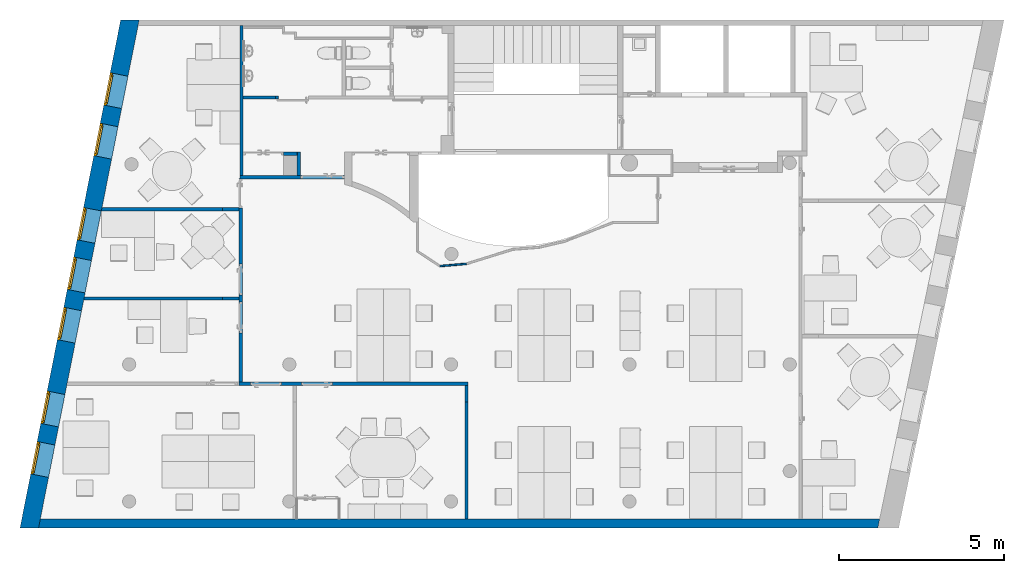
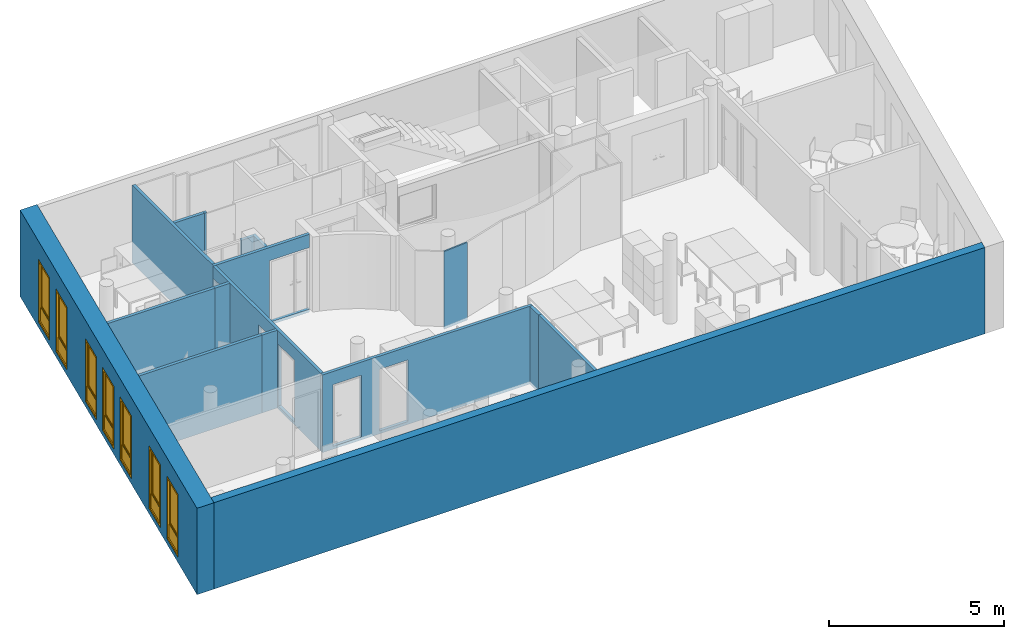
"""IFC4 building model written with IfcOpenShell, lengths in metres."""

from ifc_helpers import new_model, entity, si_unit, converted_unit, derived_unit, frame, frame_2d, origin, origin_with_axes, place, context, subcontext, project, spatial, polyline, rectangle, outline, extrude, clip, bounded_halfspace, closed_shell, open_shell, surface_model, source, transform, mapped, material, layer, layer_set, layer_usage, type_object, element, fill, save


model = new_model("IFC4")

# Units and contexts
model_context = context("Model", 3, precision=1e-05, world=origin())
body_context = subcontext(model_context, "Body", "Model", "MODEL_VIEW")
ifc_project = project(units=[si_unit("LENGTHUNIT", "METRE"), si_unit("AREAUNIT", "SQUARE_METRE"), si_unit("VOLUMEUNIT", "CUBIC_METRE"), si_unit("MASSUNIT", "GRAM", prefix="KILO"), converted_unit("PLANEANGLEUNIT", "DEGREE", entity("IfcPlaneAngleMeasure", 0.0174532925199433), si_unit("PLANEANGLEUNIT", "RADIAN"), dimensions=[0, 0, 0, 0, 0, 0, 0]), derived_unit("THERMALTRANSMITTANCEUNIT", [(si_unit("POWERUNIT", "WATT"), 1), (si_unit("THERMODYNAMICTEMPERATUREUNIT", "KELVIN"), -1), (si_unit("LENGTHUNIT", "METRE"), -2)]), derived_unit("VOLUMETRICFLOWRATEUNIT", [(si_unit("LENGTHUNIT", "METRE"), 3), (converted_unit("TIMEUNIT", "hour", entity("IfcTimeMeasure", 3600.0), si_unit("TIMEUNIT", "SECOND"), dimensions=[0, 0, 1, 0, 0, 0, 0]), -1), (si_unit("LENGTHUNIT", "METRE"), -1)])], contexts=[model_context])

# Building, storeys
building_placement = place(None, origin())
building = spatial("IfcBuilding", under=ifc_project, at=building_placement, Name="HABITATGE PLURIFAMILIAR", CompositionType="ELEMENT")
storey_1_placement = place(building_placement, frame((0.0, 0.0, 12.27)))
storey_1 = spatial("IfcBuildingStorey", under=building, at=storey_1_placement, Name="PLANTA TERCERA", CompositionType="ELEMENT", Elevation=12.27)
storey_2_placement = place(storey_1_placement, frame((0.0, 0.0, 9.26)))
storey_2 = spatial("IfcBuildingStorey", under=storey_1, at=storey_2_placement, Name="NOU", CompositionType="PARTIAL")

# Wall
ifc_material_1 = material()
ifc_layer_1 = layer(ifc_material_1, 0.1)
ifc_layer_set_1 = layer_set([ifc_layer_1])
ifc_layer_usage_1 = layer_usage(ifc_layer_set_1, "AXIS2", "POSITIVE", 0.0)
wall_1_placement = place(storey_2_placement, frame((404.436984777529, 23.5194598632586, -9.36), z_axis=(0.0, 0.0, 1.0), x_axis=(0.0, 1.0, 0.0)))
element("IfcWall", 1, at=wall_1_placement, inside=storey_2, material=ifc_layer_usage_1, Name="Evans P3", context=body_context, shape_type="SweptSolid", body=[
    extrude(outline(polyline([(0.0977698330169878, -0.1), (4.64655787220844, -0.1), (4.64655787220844, 0.0), (0.0, 0.0), (0.0, -0.0040648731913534), (0.0977698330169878, -0.0040648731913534), (0.0977698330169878, -0.1)])), frame((-0.0977698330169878, 0.1, 0.0), z_axis=(0.0, 0.0, 1.0), x_axis=(1.0, 0.0, 0.0)), (0.0, 0.0, 1.0), 2.71),
])

# Wall, opening
ifc_material_2 = material()
ifc_layer_2 = layer(ifc_material_2, 0.1)
ifc_layer_set_2 = layer_set([ifc_layer_2])
ifc_layer_usage_2 = layer_usage(ifc_layer_set_2, "AXIS2", "POSITIVE", 0.0)
wall_2_placement = place(storey_2_placement, frame((406.090468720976, 24.2294598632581, -9.36), z_axis=(0.0, 0.0, 1.0), x_axis=(-1.0, 0.0, 0.0)))
wall_2 = element("IfcWall", 2, at=wall_2_placement, inside=storey_2, material=ifc_layer_usage_2, Name="Evans P3", context=body_context, shape_type="Clipping", body=[
    clip(extrude(rectangle(XDim=1.65348394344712, YDim=0.1, at=frame_2d((0.826741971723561, 0.05), x_axis=(1.0, 0.0))), origin_with_axes(), (0.0, 0.0, 1.0), 2.71), bounded_halfspace(frame((0.00674197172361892, 0.05, 0.1), z_axis=(0.0, 0.0, -1.0), x_axis=(0.0, 1.0, 0.0)), True, origin_with_axes(), polyline([(0.0134839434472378, 0.0), (0.0134839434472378, 0.1), (0.0, 0.1), (0.0, 0.0), (0.0134839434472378, 0.0)]))),
])
opening_1_placement = place(wall_2_placement, frame((1.65348394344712, 0.1, 0.0), z_axis=(0.0, -1.0, 0.0), x_axis=(0.0, 0.0, 1.0)))
element("IfcOpeningElement", 3, at=opening_1_placement, cuts=wall_2, Name="Vano porta P3", ObjectType="Opening", context=body_context, shape_type="SweptSolid", body=[
    extrude(outline(polyline([(2.71, 1.22999999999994), (2.71, 0.0), (0.0, 0.0), (0.0, 1.22999999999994), (2.71, 1.22999999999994)])), origin_with_axes(), (0.0, 0.0, 1.0), 0.1),
])

ifc_material_3 = material()
ifc_layer_3 = layer(ifc_material_3, 0.1)
ifc_layer_set_3 = layer_set([ifc_layer_3])
ifc_layer_usage_3 = layer_usage(ifc_layer_set_3, "AXIS2", "POSITIVE", 0.0)
wall_3_placement = place(storey_2_placement, frame((404.341049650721, 23.4194598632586, -9.36)))
wall_3 = element("IfcWall", 4, at=wall_3_placement, inside=storey_2, material=ifc_layer_usage_3, Name="Evans P3", context=body_context, shape_type="SweptSolid", body=[
    extrude(rectangle(XDim=3.16593512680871, YDim=0.1, at=frame_2d((1.58296756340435, 0.05), x_axis=(1.0, 0.0))), origin_with_axes(), (0.0, 0.0, 1.0), 2.71),
])
opening_2_placement = place(wall_3_placement, frame((1.83593512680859, 0.0, 0.1), z_axis=(0.0, 1.0, 0.0), x_axis=(0.0, 0.0, 1.0)))
element("IfcOpeningElement", 5, at=opening_2_placement, cuts=wall_3, Name="Vano porta P3", ObjectType="Opening", context=body_context, shape_type="SweptSolid", body=[
    extrude(outline(polyline([(2.15, 1.33000000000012), (2.15, 0.0), (0.0, 0.0), (0.0, 1.33000000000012), (2.15, 1.33000000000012)])), origin_with_axes(), (0.0, 0.0, 1.0), 0.1),
])

# Walls
ifc_material_4 = material()
ifc_layer_4 = layer(ifc_material_4, 0.100000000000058)
ifc_layer_set_4 = layer_set([ifc_layer_4])
ifc_layer_usage_4 = layer_usage(ifc_layer_set_4, "AXIS2", "POSITIVE", 0.0)
wall_4_placement = place(storey_2_placement, frame((406.176984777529, 23.5194598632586, -9.26), z_axis=(0.0, 0.0, 1.0), x_axis=(0.0, 1.0, 0.0)))
element("IfcWall", 6, at=wall_4_placement, inside=storey_2, material=ifc_layer_usage_4, Name="Evans P3", context=body_context, shape_type="SweptSolid", body=[
    extrude(rectangle(XDim=0.709999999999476, YDim=0.100000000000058, at=frame_2d((0.354999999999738, 0.0500000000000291), x_axis=(1.0, 0.0))), origin_with_axes(), (0.0, 0.0, 1.0), 2.61),
])
ifc_material_5 = material()
ifc_layer_5 = layer(ifc_material_5, 0.0499999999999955)
ifc_layer_set_5 = layer_set([ifc_layer_5])
ifc_layer_usage_5 = layer_usage(ifc_layer_set_5, "AXIS2", "POSITIVE", 0.0)
wall_5_placement = place(storey_2_placement, frame((410.391928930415, 20.7499339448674, -9.36), z_axis=(0.0, 0.0, 1.0), x_axis=(0.996349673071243, 0.0853658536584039, 0.0)))
element("IfcWall", 7, at=wall_5_placement, inside=storey_2, material=ifc_layer_usage_5, Name="Mampara P3", context=body_context, shape_type="SweptSolid", body=[
    extrude(outline(polyline([(0.0, 0.0), (0.81444647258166, 0.0), (0.809015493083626, 0.0499999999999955), (0.0119656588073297, 0.0499999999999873), (0.0290437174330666, 0.0363573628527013), (0.0, 0.0)])), origin_with_axes(), (0.0, 0.0, 1.0), 2.71),
])
ifc_material_6 = material()
ifc_layer_6 = layer(ifc_material_6, 0.1)
ifc_layer_set_6 = layer_set([ifc_layer_6])
ifc_layer_usage_6 = layer_usage(ifc_layer_set_6, "AXIS2", "POSITIVE", 0.0)
wall_6_placement = place(storey_2_placement, frame((404.436984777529, 25.8294598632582, -9.36)))
element("IfcWall", 8, at=wall_6_placement, inside=storey_2, material=ifc_layer_usage_6, Name="Evans P3", context=body_context, shape_type="SweptSolid", body=[
    extrude(rectangle(XDim=0.987474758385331, YDim=0.1, at=frame_2d((0.493737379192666, 0.05), x_axis=(1.0, 0.0))), origin_with_axes(), (0.0, 0.0, 1.0), 2.71),
])
ifc_material_7 = material()
ifc_layer_7 = layer(ifc_material_7, 0.27)
ifc_layer_set_7 = layer_set([ifc_layer_7])
ifc_layer_usage_7 = layer_usage(ifc_layer_set_7, "AXIS2", "POSITIVE", 0.0)
wall_7_placement = place(storey_2_placement, frame((398.241737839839, 12.8406121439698, -9.36)))
element("IfcWall", 9, at=wall_7_placement, inside=storey_2, material=ifc_layer_usage_7, Name="Mur P3", context=body_context, shape_type="SweptSolid", body=[
    extrude(outline(polyline([(0.0, 0.0), (25.4157442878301, 0.0), (25.471698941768, 0.27), (0.053493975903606, 0.27), (0.0, 0.0)])), origin_with_axes(), (0.0, 0.0, 1.0), 3.01),
])

# Wall, openings, doors
ifc_material_8 = material()
ifc_layer_8 = layer(ifc_material_8, 0.550000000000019)
ifc_layer_set_8 = layer_set([ifc_layer_8])
ifc_layer_usage_8 = layer_usage(ifc_layer_set_8, "AXIS2", "POSITIVE", 0.0)
wall_8_placement = place(storey_2_placement, frame((400.729735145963, 28.22824790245, -9.36), z_axis=(0.0, 0.0, 1.0), x_axis=(-0.194348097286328, -0.980932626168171, 0.0)))
wall_8 = element("IfcWall", 10, at=wall_8_placement, inside=storey_2, material=ifc_layer_usage_8, Name="Façana nord-oest P3", context=body_context, shape_type="SweptSolid", body=[
    extrude(outline(polyline([(-15.686740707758, 0.0), (0.0, 0.0), (-0.108969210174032, 0.550000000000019), (-15.7957099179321, 0.550000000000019), (-15.686740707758, 0.0)])), frame((15.686740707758, 0.0, 0.0), z_axis=(0.0, 0.0, 1.0), x_axis=(1.0, 0.0, 0.0)), (0.0, 0.0, 1.0), 3.01),
])
opening_3_placement = place(wall_8_placement, frame((3.18625006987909, 0.0, 0.19), z_axis=(-2.56312143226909e-14, 1.0, 0.0), x_axis=(0.0, 0.0, 1.0)))
opening_3 = element("IfcOpeningElement", 11, at=opening_3_placement, cuts=wall_8, Name="Vano finestra P3", ObjectType="Opening", context=body_context, shape_type="SweptSolid", body=[
    extrude(outline(polyline([(2.19, 0.999999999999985), (2.19, 0.0), (0.0, 0.0), (0.0, 0.999999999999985), (2.19, 0.999999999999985)])), origin_with_axes(), (0.0, 0.0, 1.0), 0.550000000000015),
])
opening_4_placement = place(wall_8_placement, frame((8.86719879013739, 0.0, 0.19), z_axis=(6.61450692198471e-15, 1.0, 0.0), x_axis=(0.0, 0.0, 1.0)))
opening_4 = element("IfcOpeningElement", 12, at=opening_4_placement, cuts=wall_8, Name="Vano finestra P3", ObjectType="Opening", context=body_context, shape_type="SweptSolid", body=[
    extrude(outline(polyline([(2.19, 0.99999999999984), (2.19, 0.0), (0.0, 0.0), (0.0, 0.99999999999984), (2.19, 0.99999999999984)])), origin_with_axes(), (0.0, 0.0, 1.0), 0.550000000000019),
])
opening_5_placement = place(wall_8_placement, frame((13.01350353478, 0.0, 0.19), z_axis=(6.61450692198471e-15, 1.0, 0.0), x_axis=(0.0, 0.0, 1.0)))
opening_5 = element("IfcOpeningElement", 13, at=opening_5_placement, cuts=wall_8, Name="Vano finestra P3", ObjectType="Opening", context=body_context, shape_type="SweptSolid", body=[
    extrude(outline(polyline([(2.19, 1.0000000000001), (2.19, 0.0), (0.0, 0.0), (0.0, 1.0000000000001), (2.19, 1.0000000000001)])), origin_with_axes(), (0.0, 0.0, 1.0), 0.550000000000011),
])
opening_6_placement = place(wall_8_placement, frame((11.4535035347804, 0.0, 0.19), z_axis=(-3.30725346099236e-15, 1.0, 0.0), x_axis=(0.0, 0.0, 1.0)))
opening_6 = element("IfcOpeningElement", 14, at=opening_6_placement, cuts=wall_8, Name="Vano finestra P3", ObjectType="Opening", context=body_context, shape_type="SweptSolid", body=[
    extrude(outline(polyline([(2.19, 0.999999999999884), (2.19, 0.0), (0.0, 0.0), (0.0, 0.999999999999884), (2.19, 0.999999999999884)])), origin_with_axes(), (0.0, 0.0, 1.0), 0.550000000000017),
])
opening_7_placement = place(wall_8_placement, frame((7.31719879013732, 0.0, 0.19), z_axis=(0.0, 1.0, 0.0), x_axis=(0.0, 0.0, 1.0)))
opening_7 = element("IfcOpeningElement", 15, at=opening_7_placement, cuts=wall_8, Name="Vano finestra P3", ObjectType="Opening", context=body_context, shape_type="SweptSolid", body=[
    extrude(outline(polyline([(2.19, 0.999999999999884), (2.19, 0.0), (0.0, 0.0), (0.0, 0.999999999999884), (2.19, 0.999999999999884)])), origin_with_axes(), (0.0, 0.0, 1.0), 0.550000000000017),
])
opening_8_placement = place(wall_8_placement, frame((1.626250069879, 0.0, 0.19), z_axis=(-1.32290138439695e-14, 1.0, 0.0), x_axis=(0.0, 0.0, 1.0)))
opening_8 = element("IfcOpeningElement", 16, at=opening_8_placement, cuts=wall_8, Name="Vano finestra P3", ObjectType="Opening", context=body_context, shape_type="SweptSolid", body=[
    extrude(outline(polyline([(2.19, 1.00000000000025), (2.19, 0.0), (0.0, 0.0), (0.0, 1.00000000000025), (2.19, 1.00000000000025)])), origin_with_axes(), (0.0, 0.0, 1.0), 0.550000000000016),
])
opening_9_placement = place(wall_8_placement, frame((5.78625006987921, 0.0, 0.19), z_axis=(-1.98435207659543e-14, 1.0, 0.0), x_axis=(0.0, 0.0, 1.0)))
opening_9 = element("IfcOpeningElement", 17, at=opening_9_placement, cuts=wall_8, Name="Vano finestra P3", ObjectType="Opening", context=body_context, shape_type="SweptSolid", body=[
    extrude(outline(polyline([(2.19, 0.999999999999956), (2.19, 0.0), (0.0, 0.0), (0.0, 0.999999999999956), (2.19, 0.999999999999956)])), origin_with_axes(), (0.0, 0.0, 1.0), 0.550000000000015),
])
door_type_1 = type_object("IfcDoorType", Name="Finestra P3", OperationType="NOTDEFINED", ParameterTakesPrecedence=False, PredefinedType="DOOR")
shared_shape = source(origin_with_axes(), body_context, "Body", "SurfaceModel", [
    surface_model("IfcShellBasedSurfaceModel", [(0.0, 0.0700000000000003, 2.19), (0.0, 0.07, 0.0), (0.07, 0.07, 0.0), (0.07, 0.0700000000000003, 2.19), (0.0, 0.0, 0.0), (0.0, 0.0, 2.19), (0.07, 0.0, 2.19), (0.07, 0.0, 0.0)], [closed_shell([[[0, 1, 2, 3]], [[4, 5, 6, 7]], [[1, 0, 5, 4]], [[2, 1, 4, 7]], [[3, 2, 7, 6]], [[0, 3, 6, 5]]], orient=[[False], [False], [False], [False], [False], [False]])]),
    surface_model("IfcShellBasedSurfaceModel", [(0.930000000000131, 0.0700000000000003, 2.19), (0.930000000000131, 0.07, 0.0), (1.00000000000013, 0.07, 0.0), (1.00000000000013, 0.0700000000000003, 2.19), (0.930000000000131, 0.0, 0.0), (0.930000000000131, 0.0, 2.19), (1.00000000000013, 0.0, 2.19), (1.00000000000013, 0.0, 0.0)], [closed_shell([[[0, 1, 2, 3]], [[4, 5, 6, 7]], [[1, 0, 5, 4]], [[2, 1, 4, 7]], [[3, 2, 7, 6]], [[0, 3, 6, 5]]], orient=[[False], [False], [False], [False], [False], [False]])]),
    surface_model("IfcShellBasedSurfaceModel", [(0.07, 0.07, 0.07), (0.07, 0.07, 0.0), (0.930000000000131, 0.07, 0.0), (0.930000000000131, 0.07, 0.07), (0.07, 0.0, 0.0), (0.07, 0.0, 0.07), (0.930000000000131, 0.0, 0.07), (0.930000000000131, 0.0, 0.0)], [closed_shell([[[0, 1, 2, 3]], [[4, 5, 6, 7]], [[1, 0, 5, 4]], [[2, 1, 4, 7]], [[3, 2, 7, 6]], [[0, 3, 6, 5]]], orient=[[False], [False], [False], [False], [False], [False]])]),
    surface_model("IfcShellBasedSurfaceModel", [(0.07, 0.0700000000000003, 2.19), (0.07, 0.0700000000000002, 2.12), (0.930000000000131, 0.0700000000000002, 2.12), (0.930000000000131, 0.0700000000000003, 2.19), (0.07, 0.0, 2.12), (0.07, 0.0, 2.19), (0.930000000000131, 0.0, 2.19), (0.930000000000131, 0.0, 2.12)], [closed_shell([[[0, 1, 2, 3]], [[4, 5, 6, 7]], [[1, 0, 5, 4]], [[2, 1, 4, 7]], [[3, 2, 7, 6]], [[0, 3, 6, 5]]], orient=[[False], [False], [False], [False], [False], [False]])]),
    surface_model("IfcShellBasedSurfaceModel", [(0.07, 0.035, 0.07), (0.930000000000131, 0.035, 0.07), (0.930000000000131, 0.0350000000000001, 0.57), (0.07, 0.0350000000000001, 0.57)], [open_shell([[[0, 1, 2, 3]]], orient=[[False]])]),
    surface_model("IfcShellBasedSurfaceModel", [(0.05, 0.1, 2.14), (0.05, 0.1, 0.551), (0.1, 0.1, 0.551), (0.1, 0.1, 2.14), (0.05, 0.0500000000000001, 0.551), (0.05, 0.0500000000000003, 2.14), (0.1, 0.0500000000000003, 2.14), (0.1, 0.0500000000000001, 0.551)], [closed_shell([[[0, 1, 2, 3]], [[4, 5, 6, 7]], [[1, 0, 5, 4]], [[2, 1, 4, 7]], [[3, 2, 7, 6]], [[0, 3, 6, 5]]], orient=[[False], [False], [False], [False], [False], [False]])]),
    surface_model("IfcShellBasedSurfaceModel", [(0.900000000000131, 0.1, 2.14), (0.900000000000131, 0.1, 0.551), (0.950000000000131, 0.1, 0.551), (0.950000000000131, 0.1, 2.14), (0.900000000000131, 0.0500000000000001, 0.551), (0.900000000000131, 0.0500000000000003, 2.14), (0.950000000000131, 0.0500000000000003, 2.14), (0.950000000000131, 0.0500000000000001, 0.551)], [closed_shell([[[0, 1, 2, 3]], [[4, 5, 6, 7]], [[1, 0, 5, 4]], [[2, 1, 4, 7]], [[3, 2, 7, 6]], [[0, 3, 6, 5]]], orient=[[False], [False], [False], [False], [False], [False]])]),
    surface_model("IfcShellBasedSurfaceModel", [(0.1, 0.1, 0.601), (0.1, 0.1, 0.551), (0.900000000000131, 0.1, 0.551), (0.900000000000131, 0.1, 0.601), (0.1, 0.0500000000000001, 0.551), (0.1, 0.0500000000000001, 0.601), (0.900000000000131, 0.0500000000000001, 0.601), (0.900000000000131, 0.0500000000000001, 0.551)], [closed_shell([[[0, 1, 2, 3]], [[4, 5, 6, 7]], [[1, 0, 5, 4]], [[2, 1, 4, 7]], [[3, 2, 7, 6]], [[0, 3, 6, 5]]], orient=[[False], [False], [False], [False], [False], [False]])]),
    surface_model("IfcShellBasedSurfaceModel", [(0.1, 0.1, 2.14), (0.1, 0.1, 2.09), (0.900000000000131, 0.1, 2.09), (0.900000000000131, 0.1, 2.14), (0.1, 0.0500000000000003, 2.09), (0.1, 0.0500000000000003, 2.14), (0.900000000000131, 0.0500000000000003, 2.14), (0.900000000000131, 0.0500000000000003, 2.09)], [closed_shell([[[0, 1, 2, 3]], [[4, 5, 6, 7]], [[1, 0, 5, 4]], [[2, 1, 4, 7]], [[3, 2, 7, 6]], [[0, 3, 6, 5]]], orient=[[False], [False], [False], [False], [False], [False]])]),
    surface_model("IfcShellBasedSurfaceModel", [(0.1, 0.0750000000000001, 0.601), (0.900000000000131, 0.0750000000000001, 0.601), (0.900000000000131, 0.0750000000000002, 2.09), (0.1, 0.0750000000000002, 2.09)], [open_shell([[[0, 1, 2, 3]]], orient=[[False]])]),
])
door_1_placement = place(opening_3_placement, frame((0.0, 0.0, 0.0), z_axis=(1.0, 0.0, 0.0), x_axis=(0.0, 0.999999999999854, -2.22044604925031e-15)))
door_1 = element("IfcDoor", 18, at=door_1_placement, inside=storey_2, type_object=door_type_1, Name="Finestra P3", OverallHeight=2.19, OverallWidth=1.0, context=body_context, shape_type="MappedRepresentation", body=[
    mapped(shared_shape, transform((0.0, 0.0, 0.0), x_axis=(1.0, 0.0, 0.0), y_axis=(0.0, 1.0, 0.0), z_axis=(0.0, 0.0, 1.0), scale=0.999999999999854)),
])
fill(opening_3, door_1)
door_type_2 = type_object("IfcDoorType", Name="Finestra P3", OperationType="NOTDEFINED", ParameterTakesPrecedence=False, PredefinedType="DOOR")
door_2_placement = place(opening_4_placement, frame((0.0, 0.0, 0.0), z_axis=(1.0, 0.0, 0.0), x_axis=(0.0, 0.999999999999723, -1.38777878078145e-16)))
door_2 = element("IfcDoor", 19, at=door_2_placement, inside=storey_2, type_object=door_type_2, Name="Finestra P3", OverallHeight=2.19, OverallWidth=1.0, context=body_context, shape_type="MappedRepresentation", body=[
    mapped(shared_shape, transform((0.0, 0.0, 0.0), x_axis=(1.0, 0.0, 0.0), y_axis=(0.0, 1.0, 0.0), z_axis=(0.0, 0.0, 1.0), scale=0.999999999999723)),
])
fill(opening_4, door_2)
door_type_3 = type_object("IfcDoorType", Name="Finestra P3", OperationType="NOTDEFINED", ParameterTakesPrecedence=False, PredefinedType="DOOR")
door_3_placement = place(opening_5_placement, frame((0.0, 0.0, 0.0), z_axis=(1.0, 0.0, 0.0), x_axis=(0.0, 1.0, 5.44564393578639e-14)))
door_3 = element("IfcDoor", 20, at=door_3_placement, inside=storey_2, type_object=door_type_3, Name="Finestra P3", OverallHeight=2.19, OverallWidth=1.0, context=body_context, shape_type="MappedRepresentation", body=[
    mapped(shared_shape, transform((0.0, 0.0, 0.0), x_axis=(1.0, 0.0, 0.0), y_axis=(0.0, 1.0, 0.0), z_axis=(0.0, 0.0, 1.0), scale=1.0)),
])
fill(opening_5, door_3)
door_type_4 = type_object("IfcDoorType", Name="Finestra P3", OperationType="NOTDEFINED", ParameterTakesPrecedence=False, PredefinedType="DOOR")
door_4_placement = place(opening_6_placement, frame((0.0, 0.0, 0.0), z_axis=(1.0, 0.0, 0.0), x_axis=(0.0, 0.999999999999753, -3.05311331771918e-16)))
door_4 = element("IfcDoor", 21, at=door_4_placement, inside=storey_2, type_object=door_type_4, Name="Finestra P3", OverallHeight=2.19, OverallWidth=1.0, context=body_context, shape_type="MappedRepresentation", body=[
    mapped(shared_shape, transform((0.0, 0.0, 0.0), x_axis=(1.0, 0.0, 0.0), y_axis=(0.0, 1.0, 0.0), z_axis=(0.0, 0.0, 1.0), scale=0.999999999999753)),
])
fill(opening_6, door_4)
door_type_5 = type_object("IfcDoorType", Name="Finestra P3", OperationType="NOTDEFINED", ParameterTakesPrecedence=False, PredefinedType="DOOR")
door_5_placement = place(opening_7_placement, frame((0.0, 0.0, 0.0), z_axis=(1.0, 0.0, 0.0), x_axis=(0.0, 0.999999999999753, 7.7715611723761e-16)))
door_5 = element("IfcDoor", 22, at=door_5_placement, inside=storey_2, type_object=door_type_5, Name="Finestra P3", OverallHeight=2.19, OverallWidth=1.0, context=body_context, shape_type="MappedRepresentation", body=[
    mapped(shared_shape, transform((0.0, 0.0, 0.0), x_axis=(1.0, 0.0, 0.0), y_axis=(0.0, 1.0, 0.0), z_axis=(0.0, 0.0, 1.0), scale=0.999999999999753)),
])
fill(opening_7, door_5)
door_type_6 = type_object("IfcDoorType", Name="Finestra P3", OperationType="NOTDEFINED", ParameterTakesPrecedence=False, PredefinedType="DOOR")
door_6_placement = place(opening_8_placement, frame((0.0, 0.0, 0.0), z_axis=(1.0, 0.0, 0.0), x_axis=(0.0, 1.00000000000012, 4.44089209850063e-16)))
door_6 = element("IfcDoor", 23, at=door_6_placement, inside=storey_2, type_object=door_type_6, Name="Finestra P3", OverallHeight=2.19, OverallWidth=1.0, context=body_context, shape_type="MappedRepresentation", body=[
    mapped(shared_shape, transform((0.0, 0.0, 0.0), x_axis=(1.0, 0.0, 0.0), y_axis=(0.0, 1.0, 0.0), z_axis=(0.0, 0.0, 1.0), scale=1.00000000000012)),
])
fill(opening_8, door_6)
door_type_7 = type_object("IfcDoorType", Name="Finestra P3", OperationType="NOTDEFINED", ParameterTakesPrecedence=False, PredefinedType="DOOR")
door_7_placement = place(opening_9_placement, frame((0.0, 0.0, 0.0), z_axis=(1.0, 0.0, 0.0), x_axis=(0.0, 0.99999999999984, -5.95079541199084e-14)))
door_7 = element("IfcDoor", 24, at=door_7_placement, inside=storey_2, type_object=door_type_7, Name="Finestra P3", OverallHeight=2.19, OverallWidth=1.0, context=body_context, shape_type="MappedRepresentation", body=[
    mapped(shared_shape, transform((0.0, 0.0, 0.0), x_axis=(1.0, 0.0, 0.0), y_axis=(0.0, 1.0, 0.0), z_axis=(0.0, 0.0, 1.0), scale=0.99999999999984)),
])
fill(opening_9, door_7)

# Wall, openings
ifc_material_9 = material()
ifc_layer_9 = layer(ifc_material_9, 0.1)
ifc_layer_set_9 = layer_set([ifc_layer_9])
ifc_layer_usage_9 = layer_usage(ifc_layer_set_9, "AXIS2", "POSITIVE", 0.0)
wall_9_placement = place(storey_2_placement, frame((411.253608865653, 17.2662411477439, -9.36), z_axis=(0.0, 0.0, 1.0), x_axis=(-1.0, 0.0, 0.0)))
wall_9 = element("IfcWall", 25, at=wall_9_placement, inside=storey_2, material=ifc_layer_usage_9, Name="Mampara P3", context=body_context, shape_type="SweptSolid", body=[
    extrude(rectangle(XDim=6.93662408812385, YDim=0.1, at=frame_2d((3.46831204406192, 0.05), x_axis=(1.0, 0.0))), origin_with_axes(), (0.0, 0.0, 1.0), 2.71),
])
opening_10_placement = place(wall_9_placement, frame((5.65527130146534, 0.0, 0.1), z_axis=(0.0, 1.0, 0.0), x_axis=(0.0, 0.0, 1.0)))
element("IfcOpeningElement", 26, at=opening_10_placement, cuts=wall_9, Name="Vano porta P3", ObjectType="Opening", context=body_context, shape_type="SweptSolid", body=[
    extrude(outline(polyline([(2.15, 0.94), (2.15, 0.0), (0.0, 0.0), (0.0, 0.94), (2.15, 0.94)])), origin_with_axes(), (0.0, 0.0, 1.0), 0.1),
])
opening_11_placement = place(wall_9_placement, frame((4.11429592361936, 0.0, 0.1), z_axis=(0.0, 1.0, 0.0), x_axis=(0.0, 0.0, 1.0)))
element("IfcOpeningElement", 27, at=opening_11_placement, cuts=wall_9, Name="Vano porta P3", ObjectType="Opening", context=body_context, shape_type="SweptSolid", body=[
    extrude(outline(polyline([(2.15, 0.94), (2.15, 0.0), (0.0, 0.0), (0.0, 0.94), (2.15, 0.94)])), origin_with_axes(), (0.0, 0.0, 1.0), 0.1),
])

ifc_material_10 = material()
ifc_layer_10 = layer(ifc_material_10, 0.1)
ifc_layer_set_10 = layer_set([ifc_layer_10])
ifc_layer_usage_10 = layer_usage(ifc_layer_set_10, "AXIS2", "POSITIVE", 0.0)
wall_10_placement = place(storey_2_placement, frame((404.316984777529, 23.4216900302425, -9.36), z_axis=(0.0, 0.0, 1.0), x_axis=(0.0, -1.0, 0.0)))
wall_10 = element("IfcWall", 28, at=wall_10_placement, inside=storey_2, material=ifc_layer_usage_10, Name="Mampara P3", context=body_context, shape_type="SweptSolid", body=[
    extrude(rectangle(XDim=6.15544888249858, YDim=0.1, at=frame_2d((3.07772444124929, 0.05), x_axis=(1.0, 0.0))), origin_with_axes(), (0.0, 0.0, 1.0), 2.71),
])
opening_12_placement = place(wall_10_placement, frame((0.00523926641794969, 0.0, 0.0), z_axis=(0.0, 1.0, 0.0), x_axis=(0.0, 0.0, 1.0)))
element("IfcOpeningElement", 29, at=opening_12_placement, cuts=wall_10, Name="Vano porta P3", ObjectType="Opening", context=body_context, shape_type="SweptSolid", body=[
    extrude(outline(polyline([(2.3, 0.888009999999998), (2.3, 0.0), (0.0, 0.0), (0.0, 0.888009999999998), (2.3, 0.888009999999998)])), origin_with_axes(), (0.0, 0.0, 1.0), 0.1),
])
opening_13_placement = place(wall_10_placement, frame((2.58848843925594, 0.0, 0.1), z_axis=(0.0, 1.0, 0.0), x_axis=(0.0, 0.0, 1.0)))
element("IfcOpeningElement", 30, at=opening_13_placement, cuts=wall_10, Name="Vano porta P3", ObjectType="Opening", context=body_context, shape_type="SweptSolid", body=[
    extrude(outline(polyline([(2.15, 0.94), (2.15, 0.0), (0.0, 0.0), (0.0, 0.94), (2.15, 0.94)])), origin_with_axes(), (0.0, 0.0, 1.0), 0.1),
])
opening_14_placement = place(wall_10_placement, frame((3.72848843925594, 0.0, 0.1), z_axis=(0.0, 1.0, 0.0), x_axis=(0.0, 0.0, 1.0)))
element("IfcOpeningElement", 31, at=opening_14_placement, cuts=wall_10, Name="Vano porta P3", ObjectType="Opening", context=body_context, shape_type="SweptSolid", body=[
    extrude(outline(polyline([(2.15, 0.94), (2.15, 0.0), (0.0, 0.0), (0.0, 0.94), (2.15, 0.94)])), origin_with_axes(), (0.0, 0.0, 1.0), 0.1),
])

# Walls
ifc_material_11 = material()
ifc_layer_11 = layer(ifc_material_11, 0.1)
ifc_layer_set_11 = layer_set([ifc_layer_11])
ifc_layer_usage_11 = layer_usage(ifc_layer_set_11, "AXIS2", "POSITIVE", 0.0)
wall_11_placement = place(storey_2_placement, frame((400.144701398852, 22.4454349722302, -9.36)))
element("IfcWall", 32, at=wall_11_placement, inside=storey_2, material=ifc_layer_usage_11, Name="Evans P3", context=body_context, shape_type="SweptSolid", body=[
    extrude(outline(polyline([(0.0, 0.0), (3.6722833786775, 0.0), (3.6722833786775, 0.1), (0.0198125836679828, 0.1), (0.0, 0.0)])), origin_with_axes(), (0.0, 0.0, 1.0), 2.71),
])
ifc_material_12 = material()
ifc_layer_12 = layer(ifc_material_12, 0.1)
ifc_layer_set_12 = layer_set([ifc_layer_12])
ifc_layer_usage_12 = layer_usage(ifc_layer_set_12, "AXIS2", "POSITIVE", 0.0)
wall_12_placement = place(storey_2_placement, frame((403.816984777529, 22.4454349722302, -9.36)))
element("IfcWall", 33, at=wall_12_placement, inside=storey_2, material=ifc_layer_usage_12, Name="Mampara P3", context=body_context, shape_type="SweptSolid", body=[
    extrude(rectangle(XDim=0.5, YDim=0.1, at=frame_2d((0.25, 0.05), x_axis=(1.0, 0.0))), origin_with_axes(), (0.0, 0.0, 1.0), 2.71),
])
ifc_material_13 = material()
ifc_layer_13 = layer(ifc_material_13, 0.1)
ifc_layer_set_13 = layer_set([ifc_layer_13])
ifc_layer_usage_13 = layer_usage(ifc_layer_set_13, "AXIS2", "POSITIVE", 0.0)
wall_13_placement = place(storey_2_placement, frame((411.153608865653, 16.6662411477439, -9.36), z_axis=(0.0, 0.0, 1.0), x_axis=(0.0, -1.0, 0.0)))
element("IfcWall", 34, at=wall_13_placement, inside=storey_2, material=ifc_layer_usage_13, Name="Evans P3", context=body_context, shape_type="SweptSolid", body=[
    extrude(rectangle(XDim=3.55562900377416, YDim=0.1, at=frame_2d((1.77781450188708, 0.05), x_axis=(1.0, 0.0))), origin_with_axes(), (0.0, 0.0, 1.0), 2.71),
])
ifc_material_14 = material()
ifc_layer_14 = layer(ifc_material_14, 0.1)
ifc_layer_set_14 = layer_set([ifc_layer_14])
ifc_layer_usage_14 = layer_usage(ifc_layer_set_14, "AXIS2", "POSITIVE", 0.0)
wall_14_placement = place(storey_2_placement, frame((411.153608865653, 17.1662411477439, -9.36), z_axis=(0.0, 0.0, 1.0), x_axis=(0.0, -1.0, 0.0)))
element("IfcWall", 35, at=wall_14_placement, inside=storey_2, material=ifc_layer_usage_14, Name="Evans P3", context=body_context, shape_type="SweptSolid", body=[
    extrude(rectangle(XDim=0.5, YDim=0.1, at=frame_2d((0.25, 0.05), x_axis=(1.0, 0.0))), origin_with_axes(), (0.0, 0.0, 1.0), 2.71),
])

# Wall, opening
ifc_material_15 = material()
ifc_layer_15 = layer(ifc_material_15, 0.1)
ifc_layer_set_15 = layer_set([ifc_layer_15])
ifc_layer_usage_15 = layer_usage(ifc_layer_set_15, "AXIS2", "POSITIVE", 0.0)
wall_15_placement = place(storey_2_placement, frame((405.424459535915, 25.8294598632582, -9.36)))
wall_15 = element("IfcWall", 36, at=wall_15_placement, inside=storey_2, material=ifc_layer_usage_15, Name="Evans P3", context=body_context, shape_type="SweptSolid", body=[
    extrude(rectangle(XDim=0.990738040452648, YDim=0.1, at=frame_2d((0.495369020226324, 0.05), x_axis=(1.0, 0.0))), origin_with_axes(), (0.0, 0.0, 1.0), 2.71),
])
opening_15_placement = place(wall_15_placement, frame((0.990738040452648, 0.1, 0.0), z_axis=(0.0, -1.0, 0.0), x_axis=(0.0, 0.0, 1.0)))
element("IfcOpeningElement", 37, at=opening_15_placement, cuts=wall_15, Name="Vano porta P3", ObjectType="Opening", context=body_context, shape_type="SweptSolid", body=[
    extrude(outline(polyline([(2.71, 0.9), (2.71, 0.0), (0.0, 0.0), (0.0, 0.9), (2.71, 0.9)])), origin_with_axes(), (0.0, 0.0, 1.0), 0.1),
])

# Walls
ifc_material_16 = material()
ifc_layer_16 = layer(ifc_material_16, 0.1)
ifc_layer_set_16 = layer_set([ifc_layer_16])
ifc_layer_usage_16 = layer_usage(ifc_layer_set_16, "AXIS2", "POSITIVE", 0.0)
wall_16_placement = place(storey_2_placement, frame((403.816984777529, 19.7432015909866, -9.36)))
element("IfcWall", 38, at=wall_16_placement, inside=storey_2, material=ifc_layer_usage_16, Name="Evans P3", context=body_context, shape_type="SweptSolid", body=[
    extrude(rectangle(XDim=0.5, YDim=0.1, at=frame_2d((0.25, 0.05), x_axis=(1.0, 0.0))), origin_with_axes(), (0.0, 0.0, 1.0), 2.71),
])
ifc_material_17 = material()
ifc_layer_17 = layer(ifc_material_17, 0.1)
ifc_layer_set_17 = layer_set([ifc_layer_17])
ifc_layer_usage_17 = layer_usage(ifc_layer_set_17, "AXIS2", "POSITIVE", 0.0)
wall_17_placement = place(storey_2_placement, frame((399.609319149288, 19.7432015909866, -9.36)))
element("IfcWall", 39, at=wall_17_placement, inside=storey_2, material=ifc_layer_usage_17, Name="Evans P3", context=body_context, shape_type="SweptSolid", body=[
    extrude(outline(polyline([(0.0, 0.0), (4.20766562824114, 0.0), (4.20766562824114, 0.1), (0.0198125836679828, 0.1), (0.0, 0.0)])), origin_with_axes(), (0.0, 0.0, 1.0), 2.71),
])

save(model, "model.ifc")
